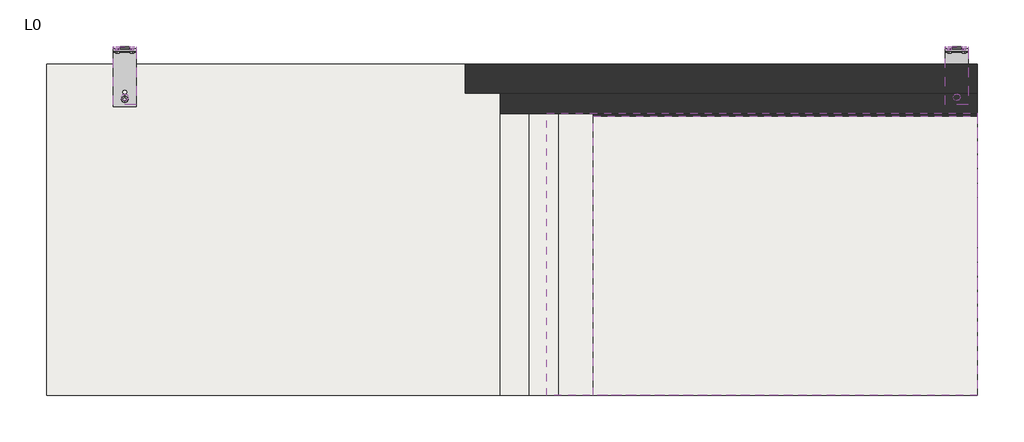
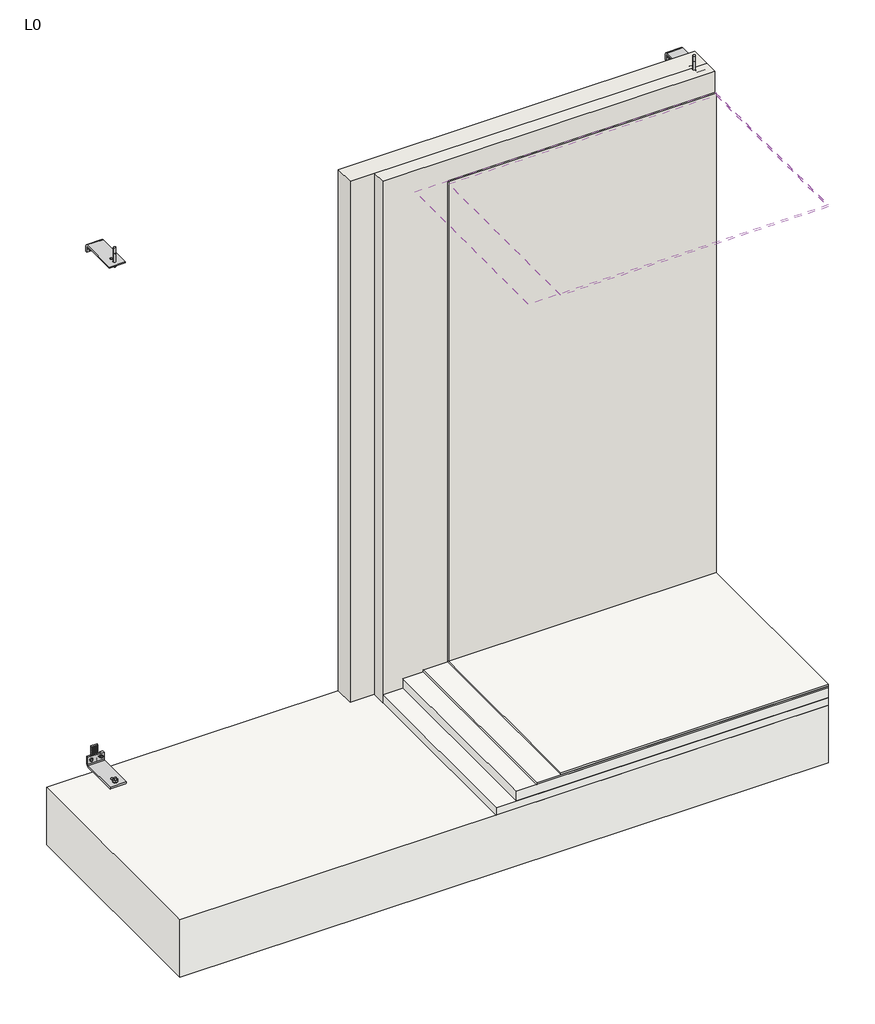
# One storey, incomplete: 18 fasteners, 5 slabs, 3 walls, 2 coverings.
"""IFC4 building model written with IfcOpenShell, lengths in millimetres."""

from ifc_helpers import new_model, si_unit, frame, origin, origin_with_axes, place, context, project, spatial, polyline, outline, extrude, faceted_brep, transform, mapped, element, save
from components import fastener_e0390137, fastener_ba79c72f, rec_aem12_100_aem12_100_46347e7a, rec_aem12_140_aem12_140_dcbebcd7, rec_pa200406r_pa200406r_2a3f9432, rec_pd120308_pd120308_7336fcc3

model = new_model("IFC4")

# Units and contexts
model_context = context("Model", 3, world=origin())
ifc_project = project(units=[si_unit("LENGTHUNIT", "METRE", prefix="MILLI")], contexts=[model_context])

# Site, building, storey
site = spatial("IfcSite", under=ifc_project)
building = spatial("IfcBuilding", under=site)
storey = spatial("IfcBuildingStorey", under=building, Name="L0", Elevation=0.0)

# Coverings
placement = place(None, origin())
element("IfcCovering", 1, ObjectType="Aislamiento", at=placement, inside=storey, context=model_context, shape_type="SweptSolid", body=[
    extrude(outline(polyline([(7887.7202663, 14794.5302953), (6407.7202663, 14794.5302953), (6407.7202663, 15764.5302953), (7887.7202663, 15764.5302953), (7887.7202663, 14794.5302953)])), frame((0.0, 0.0, 2610.0), z_axis=(0.0, 0.0, 1.0), x_axis=(1.0, 0.0, 0.0)), (0.0, 0.0, 1.0), 80.0),
])
element("IfcCovering", 2, ObjectType="Placa", at=placement, inside=storey, context=model_context, shape_type="SweptSolid", body=[
    extrude(outline(polyline([(7887.7202663, 14794.5302953), (6567.7202663, 14794.5302953), (6567.7202663, 15754.5302953), (7887.7202663, 15754.5302953), (7887.7202663, 14794.5302953)])), frame((0.0, 0.0, 2600.0), z_axis=(0.0, 0.0, 1.0), x_axis=(1.0, 0.0, 0.0)), (0.0, 0.0, 1.0), 10.0),
])

# Fasteners
fastener_shape = fastener_e0390137(model_context)
element("IfcFastener", 3, ObjectType="REC-PAA2005010R : PAA2005010R", at=placement, inside=storey, context=model_context, shape_type="MappedRepresentation", body=[
    mapped(fastener_shape, transform((4956.4821341, 15788.0302953, 0.0), x_axis=(-1.0, 0.0, 0.0), y_axis=(0.0, -1.0, 0.0), z_axis=(0.0, 0.0, 1.0))),
])
element("IfcFastener", 4, ObjectType="REC-PAA2005010R : PAA2005010R", at=placement, inside=storey, context=model_context, shape_type="MappedRepresentation", body=[
    mapped(fastener_shape, transform((7816.4821341, 15788.0302953, 0.0), x_axis=(-1.0, 0.0, 0.0), y_axis=(0.0, -1.0, 0.0), z_axis=(0.0, 0.0, 1.0))),
])
fastener_2_shape = fastener_ba79c72f(model_context)
element("IfcFastener", 5, ObjectType="REC_A_M8 : REC_A_M8", at=placement, inside=storey, context=model_context, shape_type="MappedRepresentation", body=[
    mapped(fastener_2_shape, transform((4981.2475447, 15988.5302953, 2694.9158125), x_axis=(-1.0, 0.0, 0.0), y_axis=(0.0, 0.0, -1.0), z_axis=(0.0, -1.0, 0.0))),
])
element("IfcFastener", 6, ObjectType="REC_A_M8 : REC_A_M8", at=placement, inside=storey, context=model_context, shape_type="MappedRepresentation", body=[
    mapped(fastener_2_shape, transform((4931.2475447, 15988.5302953, 2694.9158125), x_axis=(-1.0, 0.0, 0.0), y_axis=(0.0, 0.0, -1.0), z_axis=(0.0, -1.0, 0.0))),
])
element("IfcFastener", 7, ObjectType="REC_A_M8 : REC_A_M8", at=placement, inside=storey, context=model_context, shape_type="MappedRepresentation", body=[
    mapped(fastener_2_shape, transform((4931.4821341, 15978.0302953, 35.0841875), x_axis=(1.0, 0.0, 0.0), y_axis=(0.0, 0.0, 1.0), z_axis=(0.0, -1.0, 0.0))),
])
element("IfcFastener", 8, ObjectType="REC_A_M8 : REC_A_M8", at=placement, inside=storey, context=model_context, shape_type="MappedRepresentation", body=[
    mapped(fastener_2_shape, transform((4981.4821341, 15978.0302953, 35.0841875), x_axis=(1.0, 0.0, 0.0), y_axis=(0.0, 0.0, 1.0), z_axis=(0.0, -1.0, 0.0))),
])
element("IfcFastener", 9, ObjectType="REC_A_M8 : REC_A_M8", at=placement, inside=storey, context=model_context, shape_type="MappedRepresentation", body=[
    mapped(fastener_2_shape, transform((7791.4821341, 15978.0302953, 35.0841875), x_axis=(1.0, 0.0, 0.0), y_axis=(0.0, 0.0, 1.0), z_axis=(0.0, -1.0, 0.0))),
])
element("IfcFastener", 10, ObjectType="REC_A_M8 : REC_A_M8", at=placement, inside=storey, context=model_context, shape_type="MappedRepresentation", body=[
    mapped(fastener_2_shape, transform((7841.4821341, 15978.0302953, 35.0841875), x_axis=(1.0, 0.0, 0.0), y_axis=(0.0, 0.0, 1.0), z_axis=(0.0, -1.0, 0.0))),
])
element("IfcFastener", 11, ObjectType="REC_A_M8 : REC_A_M8", at=placement, inside=storey, context=model_context, shape_type="MappedRepresentation", body=[
    mapped(fastener_2_shape, transform((7841.2475447, 15988.5302953, 2694.9158125), x_axis=(-1.0, 0.0, 0.0), y_axis=(0.0, 0.0, -1.0), z_axis=(0.0, -1.0, 0.0))),
])
element("IfcFastener", 12, ObjectType="REC_A_M8 : REC_A_M8", at=placement, inside=storey, context=model_context, shape_type="MappedRepresentation", body=[
    mapped(fastener_2_shape, transform((7791.2475447, 15988.5302953, 2694.9158125), x_axis=(-1.0, 0.0, 0.0), y_axis=(0.0, 0.0, -1.0), z_axis=(0.0, -1.0, 0.0))),
])
rec_aem12_100_aem12_100_shape = rec_aem12_100_aem12_100_46347e7a(model_context)
element("IfcFastener", 13, ObjectType="REC-AEM12-100 : AEM12-100", at=placement, inside=storey, context=model_context, shape_type="MappedRepresentation", body=[
    mapped(rec_aem12_100_aem12_100_shape, transform((4956.2475447, 15819.5302953, 2714.0), x_axis=(1.0, 0.0, 0.0), y_axis=(0.0, -1.0, 0.0), z_axis=(0.0, 0.0, -1.0))),
])
element("IfcFastener", 14, ObjectType="REC-AEM12-100 : AEM12-100", at=placement, inside=storey, context=model_context, shape_type="MappedRepresentation", body=[
    mapped(rec_aem12_100_aem12_100_shape, transform((7816.2475447, 15819.5302953, 2714.0), x_axis=(1.0, 0.0, 0.0), y_axis=(0.0, -1.0, 0.0), z_axis=(0.0, 0.0, -1.0))),
])
rec_aem12_140_aem12_140_shape = rec_aem12_140_aem12_140_dcbebcd7(model_context)
element("IfcFastener", 15, ObjectType="REC-AEM12-140 : AEM12-140", at=placement, inside=storey, context=model_context, shape_type="MappedRepresentation", body=[
    mapped(rec_aem12_140_aem12_140_shape, transform((4956.5071185, 15813.0302953, 10.0), x_axis=(-1.0, 0.0, 0.0), y_axis=(0.0, -1.0, 0.0), z_axis=(0.0, 0.0, 1.0))),
])
element("IfcFastener", 16, ObjectType="REC-AEM12-140 : AEM12-140", at=placement, inside=storey, context=model_context, shape_type="MappedRepresentation", body=[
    mapped(rec_aem12_140_aem12_140_shape, transform((7816.5071185, 15813.0302953, 10.0), x_axis=(-1.0, 0.0, 0.0), y_axis=(0.0, -1.0, 0.0), z_axis=(0.0, 0.0, 1.0))),
])
rec_pa200406r_pa200406r_shape = rec_pa200406r_pa200406r_2a3f9432(model_context)
element("IfcFastener", 17, ObjectType="REC-PA200406R : PA200406R", at=placement, inside=storey, context=model_context, shape_type="MappedRepresentation", body=[
    mapped(rec_pa200406r_pa200406r_shape, transform((4956.2475447, 15794.5302953, 2720.0), x_axis=(1.0, 0.0, 0.0), y_axis=(0.0, -1.0, 0.0), z_axis=(0.0, 0.0, -1.0))),
])
element("IfcFastener", 18, ObjectType="REC-PA200406R : PA200406R", at=placement, inside=storey, context=model_context, shape_type="MappedRepresentation", body=[
    mapped(rec_pa200406r_pa200406r_shape, transform((7816.2475447, 15794.5302953, 2720.0), x_axis=(1.0, 0.0, 0.0), y_axis=(0.0, -1.0, 0.0), z_axis=(0.0, 0.0, -1.0))),
])
rec_pd120308_pd120308_shape = rec_pd120308_pd120308_7336fcc3(model_context)
element("IfcFastener", 19, ObjectType="REC-PD120308 : PD120308", at=placement, inside=storey, context=model_context, shape_type="MappedRepresentation", body=[
    mapped(rec_pd120308_pd120308_shape, transform((4956.4821341, 15994.5302953, 31.9999999), x_axis=(0.0, 0.0, 1.0), y_axis=(-1.0, 0.0, 0.0), z_axis=(0.0, -1.0, 0.0))),
])
element("IfcFastener", 20, ObjectType="REC-PD120308 : PD120308", at=placement, inside=storey, context=model_context, shape_type="MappedRepresentation", body=[
    mapped(rec_pd120308_pd120308_shape, transform((7816.4821341, 15994.5302953, 31.9999999), x_axis=(0.0, 0.0, 1.0), y_axis=(-1.0, 0.0, 0.0), z_axis=(0.0, -1.0, 0.0))),
])

# Slabs
element("IfcSlab", 21, ObjectType="DPG_Pegamento cemento", at=placement, inside=storey, context=model_context, shape_type="SweptSolid", body=[
    extrude(outline(polyline([(7887.7202663, 15764.5302953), (7887.7202663, 14794.5302953), (6447.7202663, 14794.5302953), (6447.7202663, 15764.5302953), (7887.7202663, 15764.5302953)])), frame((0.0, 0.0, 90.0), z_axis=(0.0, 0.0, 1.0), x_axis=(1.0, 0.0, 0.0)), (0.0, 0.0, 1.0), 10.0),
])
element("IfcSlab", 22, ObjectType="DPG_Aislamiento Suelo", at=placement, inside=storey, context=model_context, shape_type="SweptSolid", body=[
    extrude(outline(polyline([(7887.7202663, 15764.5302953), (7887.7202663, 14794.5302953), (6247.7202663, 14794.5302953), (6247.7202663, 15764.5302953), (7887.7202663, 15764.5302953)])), origin_with_axes(), (0.0, 0.0, 1.0), 40.0),
])
element("IfcSlab", 23, ObjectType="DPG_Ceramica", at=placement, inside=storey, context=model_context, shape_type="SweptSolid", body=[
    extrude(outline(polyline([(7887.7202663, 15764.5302953), (7887.7202663, 14794.5302953), (6567.7202663, 14794.5302953), (6567.7202663, 15764.5302953), (7887.7202663, 15764.5302953)])), frame((0.0, 0.0, 100.0), z_axis=(0.0, 0.0, 1.0), x_axis=(1.0, 0.0, 0.0)), (0.0, 0.0, 1.0), 10.0),
])
element("IfcSlab", 24, ObjectType="DPG_Losa Principal Obra", at=placement, inside=storey, context=model_context, shape_type="SweptSolid", body=[
    extrude(outline(polyline([(7887.7202663, 15934.5302953), (7887.7202663, 14794.5302953), (4687.7202663, 14794.5302953), (4687.7202663, 15934.5302953), (7887.7202663, 15934.5302953)])), frame((0.0, 0.0, -300.0), z_axis=(0.0, 0.0, 1.0), x_axis=(1.0, 0.0, 0.0)), (0.0, 0.0, 1.0), 300.0),
])
element("IfcSlab", 25, ObjectType="DPG_Recrecido", at=placement, inside=storey, context=model_context, shape_type="SweptSolid", body=[
    extrude(outline(polyline([(7887.7202663, 15764.5302953), (7887.7202663, 14794.5302953), (6347.7202663, 14794.5302953), (6347.7202663, 15764.5302953), (7887.7202663, 15764.5302953)])), frame((0.0, 0.0, 40.0), z_axis=(0.0, 0.0, 1.0), x_axis=(1.0, 0.0, 0.0)), (0.0, 0.0, 1.0), 50.0),
])

# Walls
element("IfcWall", 26, ObjectType="DPG_Aislamiento", at=placement, inside=storey, context=model_context, shape_type="SweptSolid", body=[
    extrude(outline(polyline([(7887.7202663, 15834.5302953), (6127.7202663, 15834.5302953), (6127.7202663, 15934.5302953), (7887.7202663, 15934.5302953), (7887.7202663, 15834.5302953)])), origin_with_axes(), (0.0, 0.0, 1.0), 2720.0),
])
element("IfcWall", 27, ObjectType="DPG_Enlucido", at=placement, inside=storey, context=model_context, shape_type="SweptSolid", body=[
    extrude(outline(polyline([(7887.7202663, 15754.5302953), (6567.7202663, 15754.5302953), (6567.7202663, 15764.5302953), (7887.7202663, 15764.5302953), (7887.7202663, 15754.5302953)])), frame((0.0, 0.0, 110.0), z_axis=(0.0, 0.0, 1.0), x_axis=(1.0, 0.0, 0.0)), (0.0, 0.0, 1.0), 2500.0),
])
element("IfcWall", 28, ObjectType="DPG_Ladrillo", at=placement, inside=storey, context=model_context, shape_type="Brep", body=[
    faceted_brep([(6247.7202663, 15764.5302953, 0.0), (7887.7202663, 15764.5302953, 0.0), (7887.7202663, 15764.5302953, 40.0), (7887.7202663, 15764.5302953, 90.0), (7887.7202663, 15764.5302953, 100.0), (7887.7202663, 15764.5302953, 110.0), (7887.7202663, 15764.5302953, 2720.0), (6247.7202663, 15764.5302953, 2720.0), (6247.7202663, 15834.5302953, 0.0), (6247.7202663, 15834.5302953, 2720.0), (7887.7202663, 15834.5302953, 2720.0), (7887.7202663, 15834.5302953, 0.0)], [[[0, 1, 2, 3, 4, 5, 6, 7]], [[8, 9, 10, 11]], [[1, 0, 8, 11]], [[6, 5, 4, 3, 2, 1, 11, 10]], [[7, 6, 10, 9]], [[0, 7, 9, 8]]]),
])

save(model, "model.ifc")
